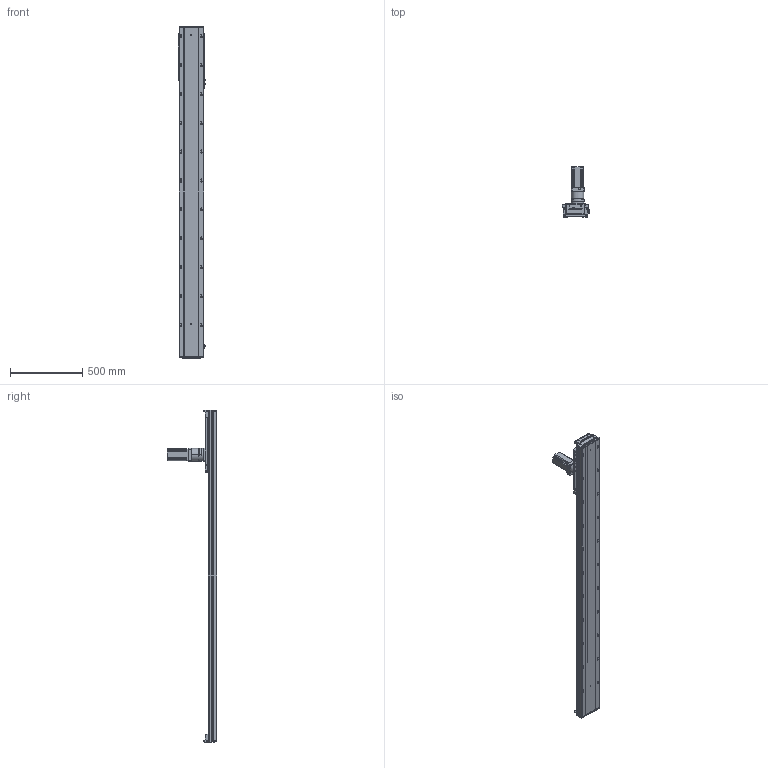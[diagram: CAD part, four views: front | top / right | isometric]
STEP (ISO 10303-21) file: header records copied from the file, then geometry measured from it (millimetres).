
FILE_DESCRIPTION (( 'STEP AP203' ), '1' );
FILE_NAME ('RY170-C-1000-UK.SLDASM_1800.step', '2021-03-03T00:46:57', ( '盈信电脑' ), ( '东莞市道滘镇水果街19号' ), 'SwSTEP 2.0', 'SolidWorks 2012', '' );
FILE_SCHEMA (( 'CONFIG_CONTROL_DESIGN' ));
Length unit declared in the file: millimetre
Products named in the file (13): RY170-喘沭賑輸; RY170-C-1000-UK.SLDASM_1800; TF080等撰; RY170-喘沭滅袉蝶輸; 左旋斜齿齿轮_M2_22齿_内孔20; RY170外置感应片(200共用）; RY170-喘謫萇儂覃誹啣; 覜茼ん672; 怢湛750W萇儂ㄗ80遺ㄘ; RY170-1000-喘沭耀郪絳寢EGH20CA_1800; 絳寢賑輸EGH20CA; RY170-1000齿条模组型材底座_1800; RY170綴裔啣ㄗ蜊秶ㄘ
Assembly tree (22 placements, depth 2):
  RY170-C-1000-UK.SLDASM_1800
    RY170-1000齿条模组型材底座_1800
    絳寢賑輸EGH20CA  x6
    RY170-1000-喘沭耀郪絳寢EGH20CA_1800  x2
    RY170綴裔啣ㄗ蜊秶ㄘ  x2
    覜茼ん672  x3
    RY170外置感应片(200共用）
    RY170-喘謫萇儂覃誹啣
    怢湛750W萇儂ㄗ80遺ㄘ
    RY170-喘沭滅袉蝶輸  x2
    TF080等撰
    左旋斜齿齿轮_M2_22齿_内孔20
    RY170-喘沭賑輸
Bounding box: 188.7 x 343.5 x 2300 mm (x, y, z)
Volume: 12735666.7 mm3; surface area: 3155851.7 mm2
Topology: 24 solids, 24 shells, 4253 faces, 11840 edges, 7595 vertices
Faces by surface type: plane 2083, cylinder 1806, cone 310, bspline 50, torus 4
Entity records: 93942 total; most frequent: CARTESIAN_POINT 21611, ORIENTED_EDGE 15022, DIRECTION 14652, EDGE_CURVE 7511, AXIS2_PLACEMENT_3D 5387, VERTEX_POINT 4887, LINE 3878, VECTOR 3878
